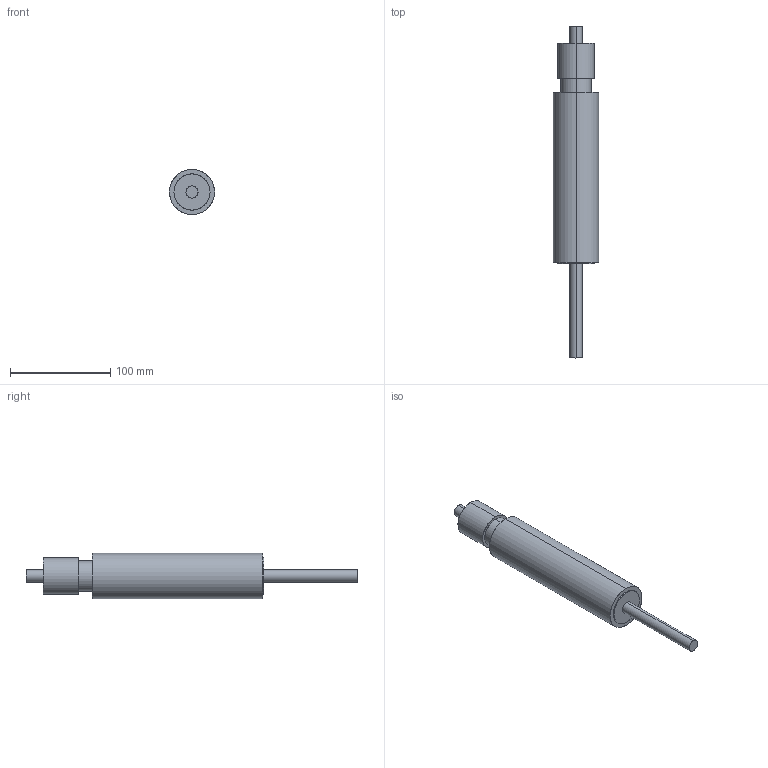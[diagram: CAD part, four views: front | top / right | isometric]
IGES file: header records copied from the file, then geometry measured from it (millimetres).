
Start section: START RECORD GO HERE.
Global section: file name: D995-3_1.igs; native system: DASSAULT SYSTEMES CATIA V5 R20 - www.3ds.com; preprocessor: CATIA Version 5 Release 20 ; author: Utente; organization: NB04-ASUS; date: 20200417.155749; units: millimetre
Bounding box: 45 x 331 x 45 mm (x, y, z)
Surface area: 37411.6 mm2 (no closed solid volume)
Topology: 0 solids, 0 shells, 19 faces, 72 edges, 72 vertices
Faces by surface type: revolution 12, extrusion 7
